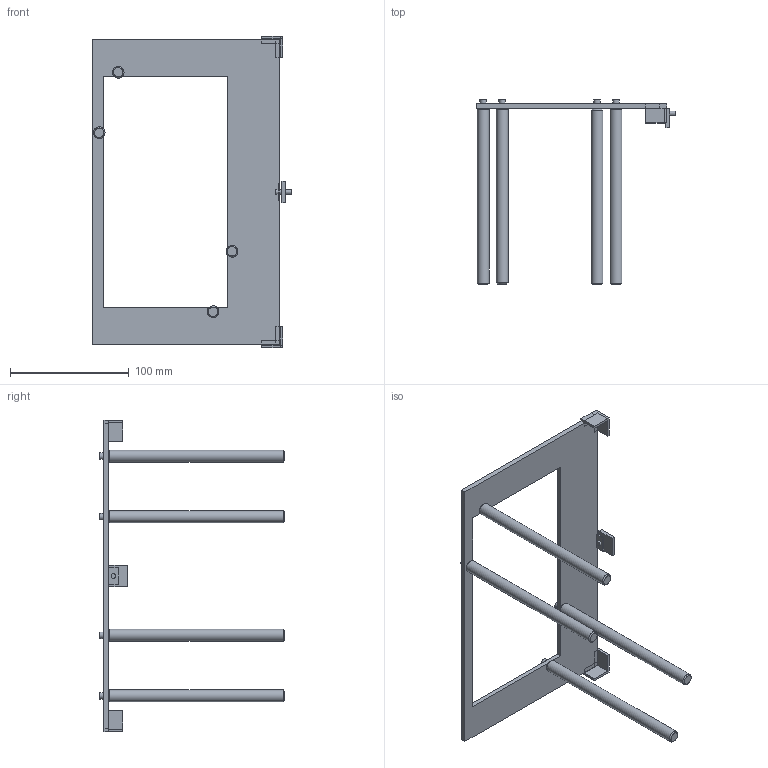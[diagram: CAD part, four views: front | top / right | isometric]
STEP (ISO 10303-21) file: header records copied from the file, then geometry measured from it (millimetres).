
FILE_DESCRIPTION(('Open CASCADE Model'),'2;1');
FILE_NAME('Open CASCADE Shape Model','2026-11-06T01:56:43',('Author'),( 'Open CASCADE'),'Open CASCADE STEP processor 7.8','Open CASCADE 7.8' ,'Unknown');
FILE_SCHEMA(('AUTOMOTIVE_DESIGN { 1 0 10303 214 1 1 1 1 }'));
Length unit declared in the file: millimetre
Products named in the file (19): Right_Guide_Module_R02; Right_independent_top_plate; Right_Guide_01; Right_M3_screw_envelope_00; Right_washer_envelope_00; Right_Guide_02; Right_M3_screw_envelope_01; Right_washer_envelope_01; Right_Guide_03; Right_M3_screw_envelope_02; Right_washer_envelope_02; Right_Guide_04; Right_M3_screw_envelope_03; Right_washer_envelope_03; Right_locator_-1; Right_locator_1; Right_clamp_pad_CONCEPT; Right_clamp_tab_CONCEPT; Right_clamp_screw_CONCEPT
Assembly tree (18 placements, depth 2):
  Right_Guide_Module_R02
    Right_independent_top_plate
    Right_Guide_01
    Right_M3_screw_envelope_00
    Right_washer_envelope_00
    Right_Guide_02
    Right_M3_screw_envelope_01
    Right_washer_envelope_01
    Right_Guide_03
    Right_M3_screw_envelope_02
    Right_washer_envelope_02
    Right_Guide_04
    Right_M3_screw_envelope_03
    Right_washer_envelope_03
    Right_locator_-1
    Right_locator_1
    Right_clamp_pad_CONCEPT
    Right_clamp_tab_CONCEPT
    Right_clamp_screw_CONCEPT
Bounding box: 167.5 x 155.6 x 262.5 mm (x, y, z)
Volume: 131461.2 mm3; surface area: 70875 mm2
Topology: 18 solids, 18 shells, 157 faces, 301 edges, 188 vertices
Faces by surface type: plane 114, cylinder 35, cone 8
Full cylindrical faces by diameter (mm): 2.5 x4, 3 x4, 3.2 x4, 4 x1, 5.5 x4, 7 x4, 10 x4
Entity records: 8237 total; most frequent: CARTESIAN_POINT 1339, DIRECTION 1261, LINE 683, VECTOR 683, ORIENTED_EDGE 602, PCURVE 602, DEFINITIONAL_REPRESENTATION 602, EDGE_CURVE 301
